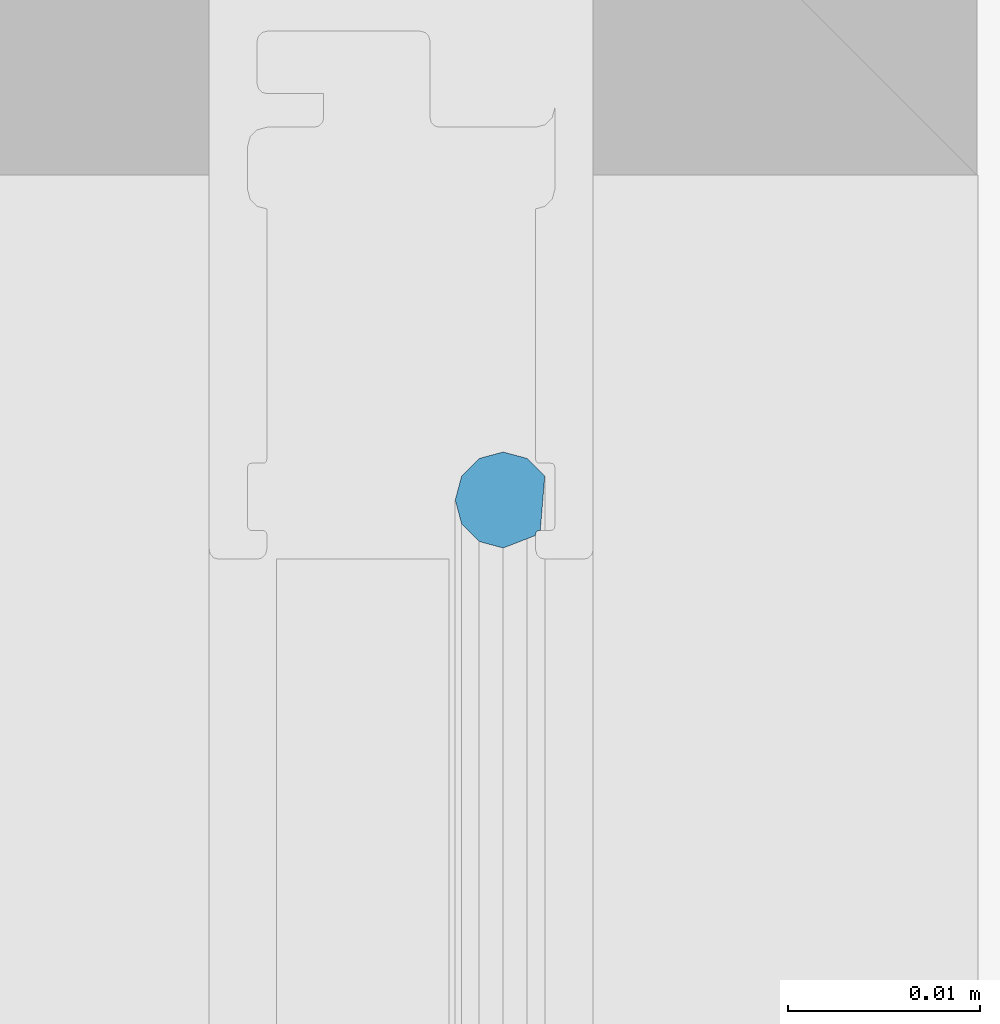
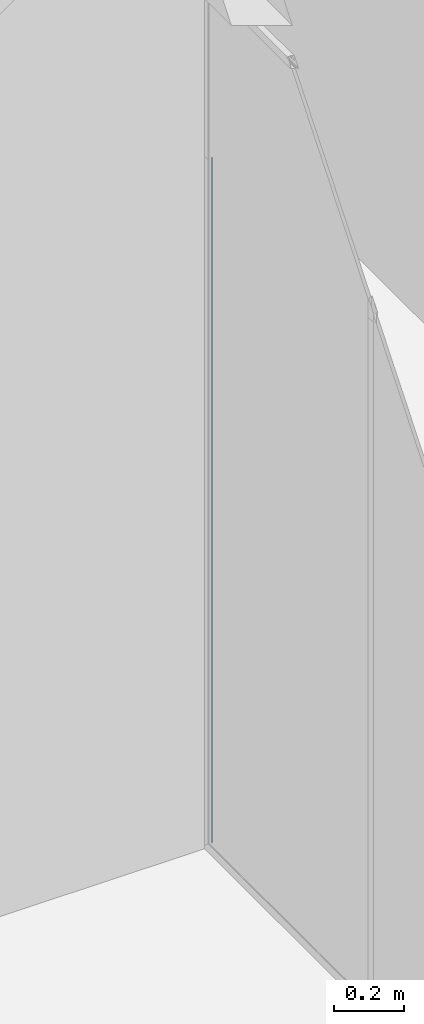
# One storey, part 49 of 387: 1 building element part, 2 elements without a shape of their own.
"""IFC2X3 building model written with IfcOpenShell, lengths in millimetres."""

from ifc_helpers import new_model, entity, si_unit, converted_unit, derived_unit, money_unit, direction, frame, origin_with_axes, place, context, subcontext, project, spatial, faceted_brep, source, transform, mapped, material, type_object, element, aggregate, save


model = new_model("IFC2X3")

# Units and contexts
model_context = context("Model", 3, precision=0.01, world=origin_with_axes(), true_north=direction((0.0, 1.0)))
body_context = subcontext(model_context, "Body", "Model", "MODEL_VIEW")
ifc_project = project(units=[si_unit("LENGTHUNIT", "METRE", prefix="MILLI"), si_unit("AREAUNIT", "SQUARE_METRE"), si_unit("VOLUMEUNIT", "CUBIC_METRE"), converted_unit("PLANEANGLEUNIT", "DEGREE", entity("IfcPlaneAngleMeasure", 0.0174532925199), si_unit("PLANEANGLEUNIT", "RADIAN"), dimensions=[0, 0, 0, 0, 0, 0, 0]), si_unit("SOLIDANGLEUNIT", "STERADIAN"), money_unit("EUR"), converted_unit("TIMEUNIT", "Year", entity("IfcTimeMeasure", 31556926.0), si_unit("TIMEUNIT", "SECOND"), dimensions=[0, 0, 1, 0, 0, 0, 0]), si_unit("MASSUNIT", "GRAM", prefix="KILO"), si_unit("THERMODYNAMICTEMPERATUREUNIT", "DEGREE_CELSIUS"), si_unit("LUMINOUSINTENSITYUNIT", "LUMEN"), si_unit("ENERGYUNIT", "JOULE", prefix="MEGA"), derived_unit("THERMALCONDUCTANCEUNIT", [(si_unit("POWERUNIT", "WATT"), 1), (si_unit("LENGTHUNIT", "METRE"), -1), (si_unit("THERMODYNAMICTEMPERATUREUNIT", "KELVIN"), -1)]), derived_unit("SPECIFICHEATCAPACITYUNIT", [(si_unit("ENERGYUNIT", "JOULE"), 1), (si_unit("MASSUNIT", "GRAM", prefix="KILO"), -1), (si_unit("THERMODYNAMICTEMPERATUREUNIT", "KELVIN"), -1)]), derived_unit("MASSDENSITYUNIT", [(si_unit("MASSUNIT", "GRAM", prefix="KILO"), 1), (si_unit("VOLUMEUNIT", "CUBIC_METRE"), -1)])], contexts=[model_context])

# Site, building, storey
site_placement = place(None, origin_with_axes())
site = spatial("IfcSite", under=ifc_project, at=site_placement, Name="Puškini 31, Narva", CompositionType="ELEMENT")
building_placement = place(site_placement, origin_with_axes())
building = spatial("IfcBuilding", under=site, at=building_placement, Name="Narva Riigigümnaasium", CompositionType="ELEMENT")
storey_placement = place(building_placement, frame((0.0, 0.0, 2640.0), z_axis=(0.0, 0.0, 1.0), x_axis=(1.0, 0.0, 0.0)))
storey = spatial("IfcBuildingStorey", under=building, at=storey_placement, Name="2.korrus +2.64", CompositionType="ELEMENT", Elevation=2640.0)

# Curtain wall, member, building element part
curtain_wall_type = type_object("IfcCurtainWallType", Name="Curtain Wall Type", PredefinedType="NOTDEFINED")
curtain_wall_placement = place(storey_placement, frame((28369.9999994, 164166.500006, -9.21871734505e-06), z_axis=(0.0, 0.0, 1.0), x_axis=(1.0, 0.0, 0.0)))
curtain_wall = element("IfcCurtainWall", 1, at=curtain_wall_placement, inside=storey, type_object=curtain_wall_type, Name="G-SKLF-11")
member_type = type_object("IfcMemberType", Name="30 x 10", PredefinedType="MULLION")
member_placement = place(curtain_wall_placement, frame((4.14992484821e-08, 2333.4999946, 0.0), z_axis=(0.0, 0.0, 1.0), x_axis=(0.0, -1.0, 0.0)))
member = element("IfcMember", 2, at=member_placement, type_object=member_type, Name="G-SKLF-15-raam", ObjectType="MULLION")
aggregate(curtain_wall, [member])
ifc_material = material(Name="Membraan - Veekindel")
shared_shape = source(origin_with_axes(), body_context, "Body", "Brep", [
    faceted_brep([(25.6641727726, 7.48000965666, 25.6641727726), (25.6641727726, 7.48000965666, 2400.00000922), (28.5, 7.24760028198, 2400.00000922), (28.5, 7.24760028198, 28.5), (24.7491092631, 6.56494614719, 24.7491092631), (24.7491092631, 6.56494614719, 2400.00000922), (24.4141727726, 5.31494614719, 2400.00000922), (24.7491092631, 4.06494614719, 2400.00000922), (25.6641727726, 3.14988263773, 2400.00000922), (26.9141727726, 2.81494614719, 2400.00000922), (28.1641727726, 3.14988263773, 2400.00000922), (29.079236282, 4.06494614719, 2400.00000922), (29.4141727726, 5.31494614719, 2400.00000922), (28.7609519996, 6.99999999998, 2400.00000922), (28.7, 6.99999999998, 2400.00000922), (28.6, 7.02679491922, 2400.00000922), (28.5267949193, 7.09999999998, 2400.00000922), (28.5, 7.19999999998, 2400.00000922), (28.5, 7.19999999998, 28.5), (28.5267949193, 7.09999999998, 28.5267949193), (28.6, 7.02679491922, 28.6), (28.7, 6.99999999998, 28.7), (28.7609519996, 6.99999999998, 28.7609519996), (29.4141727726, 5.31494614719, 29.4141727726), (29.079236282, 4.06494614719, 29.079236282), (28.1641727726, 3.14988263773, 28.1641727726), (26.9141727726, 2.81494614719, 26.9141727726), (25.6641727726, 3.14988263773, 25.6641727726), (24.7491092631, 4.06494614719, 24.7491092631), (24.4141727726, 5.31494614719, 24.4141727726)], [[[0, 1, 2, 3]], [[4, 5, 1, 0]], [[2, 1, 5, 6, 7, 8, 9, 10, 11, 12, 13, 14, 15, 16, 17]], [[3, 2, 17, 18]], [[3, 18, 19, 20, 21, 22, 23, 24, 25, 26, 27, 28, 29, 4, 0]], [[29, 6, 5, 4]], [[28, 7, 6, 29]], [[27, 8, 7, 28]], [[26, 9, 8, 27]], [[25, 10, 9, 26]], [[24, 11, 10, 25]], [[23, 12, 11, 24]], [[22, 13, 12, 23]], [[21, 14, 13, 22]], [[20, 15, 14, 21]], [[19, 16, 15, 20]], [[18, 17, 16, 19]]]),
])
building_element_part_placement = place(member_placement, origin_with_axes())
building_element_part = element("IfcBuildingElementPart", 3, at=building_element_part_placement, material=ifc_material, Name="Membraan - Veekindel", context=body_context, shape_type="MappedRepresentation", body=[
    mapped(shared_shape, transform((0.0, 0.0, 0.0))),
])
aggregate(member, [building_element_part])

save(model, "model.ifc")
